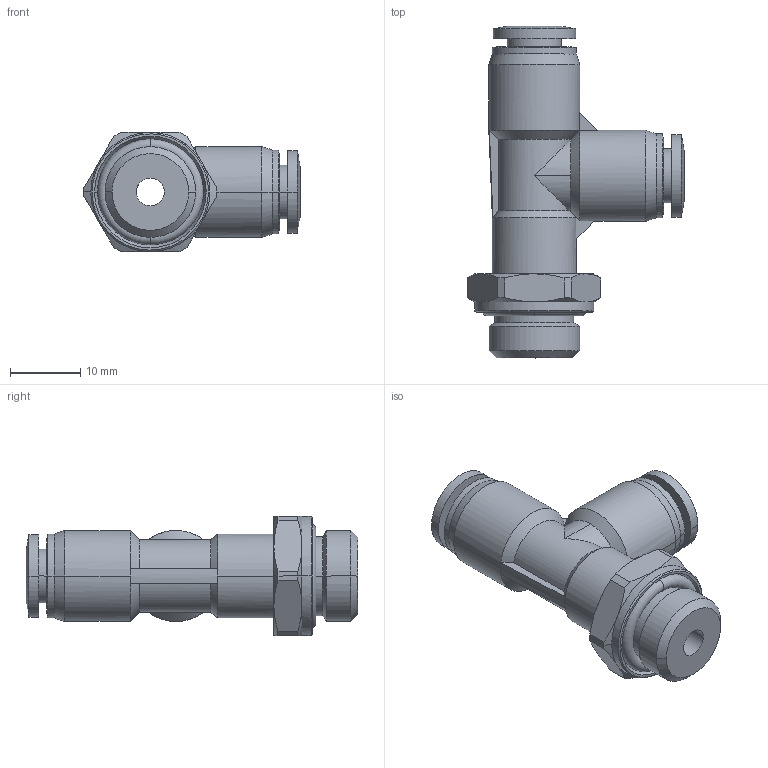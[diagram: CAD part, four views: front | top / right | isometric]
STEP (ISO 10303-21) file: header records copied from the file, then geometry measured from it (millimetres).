
FILE_DESCRIPTION (( 'STEP AP203' ), '1' );
FILE_NAME ('FLT06-02.STEP', '2020-05-12T14:15:23', ( '' ), ( '' ), 'SwSTEP 2.0', 'SolidWorks 2019', '' );
FILE_SCHEMA (( 'CONFIG_CONTROL_DESIGN' ));
Length unit declared in the file: millimetre
Products named in the file (1): FLT06-02
Bounding box: 30.9 x 47.4 x 17 mm (x, y, z)
Surface area: 4698.6 mm2 (no closed solid volume)
Topology: 0 solids, 4 shells, 122 faces, 295 edges, 184 vertices
Faces by surface type: cylinder 46, cone 40, plane 27, bspline 5, torus 4
Entity records: 5891 total; most frequent: CARTESIAN_POINT 3477, ORIENTED_EDGE 574, DIRECTION 303, EDGE_CURVE 295, B_SPLINE_CURVE_WITH_KNOTS 220, VERTEX_POINT 184, EDGE_LOOP 135, AXIS2_PLACEMENT_3D 122
